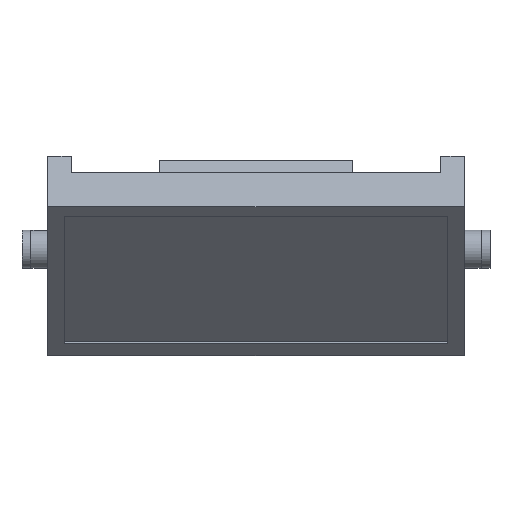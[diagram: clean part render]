
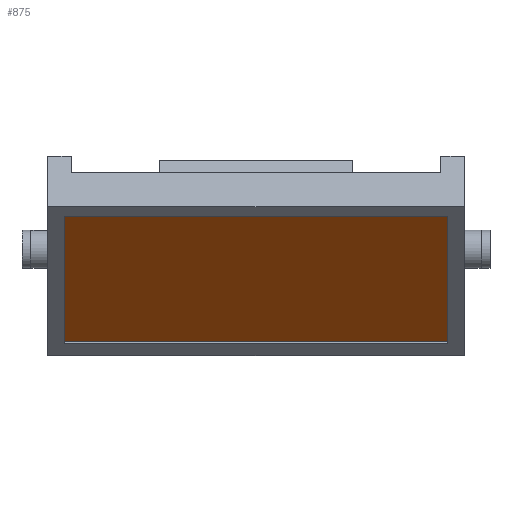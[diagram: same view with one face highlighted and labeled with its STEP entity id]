
A CAD part, left-side view. The second image highlights one B-rep face of the part: STEP entity #875.
In plain terms, the highlighted planar face has unit normal (-0.707, 0, -0.707) as drawn and (0, 0, -1) by its records, which use the part's own axes.
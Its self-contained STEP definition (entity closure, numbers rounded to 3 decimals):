
#64=FACE_OUTER_BOUND('',#115,.T.);
#115=EDGE_LOOP('',(#599,#600,#601,#602));
#170=LINE('',#1283,#275);
#174=LINE('',#1290,#279);
#177=LINE('',#1296,#282);
#179=LINE('',#1299,#284);
#275=VECTOR('',#1029,10.);
#279=VECTOR('',#1035,10.);
#282=VECTOR('',#1040,10.);
#284=VECTOR('',#1044,10.);
#380=VERTEX_POINT('',#1280);
#381=VERTEX_POINT('',#1282);
#383=VERTEX_POINT('',#1288);
#385=VERTEX_POINT('',#1294);
#462=EDGE_CURVE('',#380,#381,#170,.T.);
#466=EDGE_CURVE('',#383,#380,#174,.T.);
#469=EDGE_CURVE('',#385,#383,#177,.T.);
#471=EDGE_CURVE('',#381,#385,#179,.T.);
#599=ORIENTED_EDGE('',*,*,#471,.F.);
#600=ORIENTED_EDGE('',*,*,#462,.F.);
#601=ORIENTED_EDGE('',*,*,#466,.F.);
#602=ORIENTED_EDGE('',*,*,#469,.F.);
#833=PLANE('',#953);
#875=ADVANCED_FACE('',(#64),#833,.F.);
#953=AXIS2_PLACEMENT_3D('',#1300,#1045,#1046);
#1029=DIRECTION('',(0.,-1.,0.));
#1035=DIRECTION('',(-1.,0.,0.));
#1040=DIRECTION('',(0.,1.,0.));
#1044=DIRECTION('',(1.,0.,0.));
#1045=DIRECTION('center_axis',(0.,0.,1.));
#1046=DIRECTION('ref_axis',(1.,0.,0.));
#1280=CARTESIAN_POINT('',(-149.7,322.5,-27.443));
#1282=CARTESIAN_POINT('',(-149.7,-322.5,-27.443));
#1283=CARTESIAN_POINT('',(-149.7,322.5,-27.443));
#1288=CARTESIAN_POINT('',(150.3,322.5,-27.443));
#1290=CARTESIAN_POINT('',(-157.2,322.5,-27.443));
#1294=CARTESIAN_POINT('',(150.3,-322.5,-27.443));
#1296=CARTESIAN_POINT('',(150.3,-322.5,-27.443));
#1299=CARTESIAN_POINT('',(157.8,-322.5,-27.443));
#1300=CARTESIAN_POINT('Origin',(0.3,0.,-27.443));
